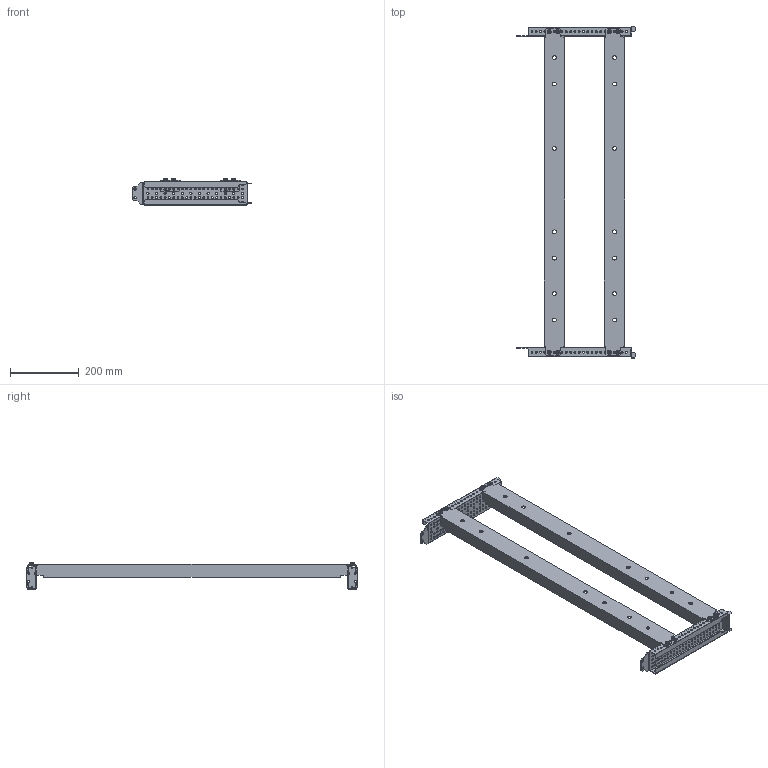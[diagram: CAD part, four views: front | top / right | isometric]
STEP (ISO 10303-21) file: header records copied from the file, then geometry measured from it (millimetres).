
FILE_DESCRIPTION (( 'STEP AP214' ), '1' );
FILE_NAME ('FO-00-G-060-100 Êîìïëåêò óñòàíîâî÷íûé ARMAT ACB òèïîðàçìåð G 3II4P 600õ1000.STEP', '2025-08-04T08:05:48', ( '' ), ( '' ), 'SwSTEP 2.0', 'SolidWorks 2023', '' );
FILE_SCHEMA (( 'AUTOMOTIVE_DESIGN' ));
Length unit declared in the file: millimetre
Products named in the file (4): Траверса возд. выключателя по глубине; FO-00-G-060-100 Комплект установочный ARMAT ACB типоразмер G 3II4P 600х1000; Траверса горизонтальная G 1000 мм; M6x10_Torx_T30
Assembly tree (20 placements, depth 2):
  FO-00-G-060-100 Комплект установочный ARMAT ACB типоразмер G 3II4P 600х1000
    Траверса возд. выключателя по глубине  x2
    Траверса горизонтальная G 1000 мм  x2
    M6x10_Torx_T30  x16
Bounding box: 344.49 x 966 x 79 mm (x, y, z)
Volume: 876297 mm3; surface area: 676776.8 mm2
Topology: 20 solids, 20 shells, 1492 faces, 4132 edges, 2712 vertices
Faces by surface type: cylinder 996, plane 358, cone 64, torus 64, bspline 10
Entity records: 19360 total; most frequent: CARTESIAN_POINT 3666, DIRECTION 3372, ORIENTED_EDGE 3110, EDGE_CURVE 1555, AXIS2_PLACEMENT_3D 1289, VERTEX_POINT 1034, EDGE_LOOP 873, LINE 794
